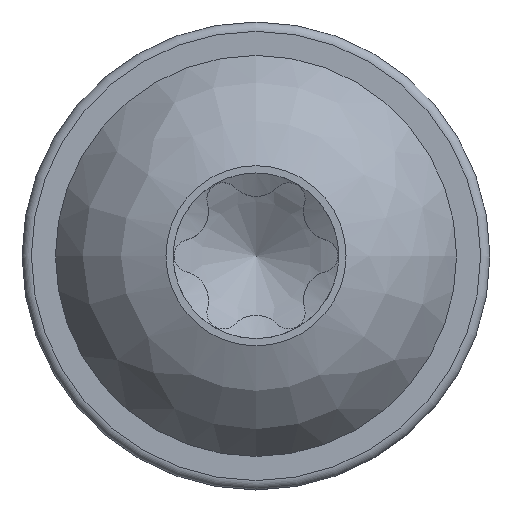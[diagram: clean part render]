
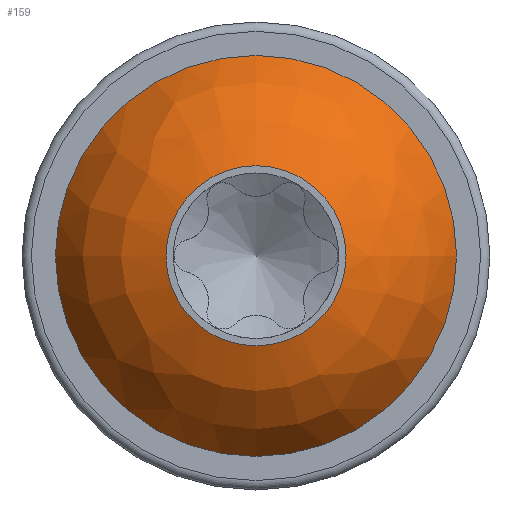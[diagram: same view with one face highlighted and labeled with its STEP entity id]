
A CAD part, top view. The second image highlights one B-rep face of the part: STEP entity #159.
In plain terms, the highlighted free-form (B-spline) face has degree [3, 3] with [4, 7] control points.
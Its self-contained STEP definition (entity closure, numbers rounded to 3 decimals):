
#98=(
BOUNDED_SURFACE()
B_SPLINE_SURFACE(3,3,((#1478,#1479,#1480,#1481,#1482,#1483,#1484),(#1485,
#1486,#1487,#1488,#1489,#1490,#1491),(#1492,#1493,#1494,#1495,#1496,#1497,
#1498),(#1499,#1500,#1501,#1502,#1503,#1504,#1505)),.UNSPECIFIED.,.F.,.T.,
 .F.)
B_SPLINE_SURFACE_WITH_KNOTS((4,4),(1,3,3,3,1),(0.,1.),(-0.5,0.,0.5,1.,1.5),
 .UNSPECIFIED.)
GEOMETRIC_REPRESENTATION_ITEM()
RATIONAL_B_SPLINE_SURFACE(((1.,0.333,0.333,1.,0.333,
0.333,1.),(0.941,0.314,0.314,
0.941,0.314,0.314,0.941),
(0.941,0.314,0.314,0.941,
0.314,0.314,0.941),(1.,0.333,
0.333,1.,0.333,0.333,1.)))
REPRESENTATION_ITEM('')
SURFACE()
);
#134=FACE_BOUND('',#245,.T.);
#135=FACE_BOUND('',#246,.T.);
#159=ADVANCED_FACE('',(#134,#135),#98,.T.);
#245=EDGE_LOOP('',(#342));
#246=EDGE_LOOP('',(#343));
#300=CIRCLE('',#735,2.143);
#301=CIRCLE('',#737,0.963);
#342=ORIENTED_EDGE('',*,*,#595,.F.);
#343=ORIENTED_EDGE('',*,*,#594,.T.);
#524=VERTEX_POINT('',#1474);
#525=VERTEX_POINT('',#1477);
#594=EDGE_CURVE('',#524,#524,#300,.T.);
#595=EDGE_CURVE('',#525,#525,#301,.T.);
#735=AXIS2_PLACEMENT_3D('',#1473,#802,#803);
#737=AXIS2_PLACEMENT_3D('',#1476,#806,#807);
#802=DIRECTION('',(0.,0.,1.));
#803=DIRECTION('',(1.,0.,0.));
#806=DIRECTION('',(0.,0.,1.));
#807=DIRECTION('',(1.,0.,0.));
#1473=CARTESIAN_POINT('',(0.,0.,0.5));
#1474=CARTESIAN_POINT('',(2.143,0.,0.5));
#1476=CARTESIAN_POINT('',(0.,0.,1.5));
#1477=CARTESIAN_POINT('',(0.963,0.,1.5));
#1478=CARTESIAN_POINT('',(0.963,0.,1.5));
#1479=CARTESIAN_POINT('',(0.963,1.925,1.5));
#1480=CARTESIAN_POINT('',(-0.963,1.925,1.5));
#1481=CARTESIAN_POINT('',(-0.963,0.,1.5));
#1482=CARTESIAN_POINT('',(-0.963,-1.925,1.5));
#1483=CARTESIAN_POINT('',(0.963,-1.925,1.5));
#1484=CARTESIAN_POINT('',(0.963,0.,1.5));
#1485=CARTESIAN_POINT('',(1.49,0.,1.35));
#1486=CARTESIAN_POINT('',(1.49,2.979,1.35));
#1487=CARTESIAN_POINT('',(-1.49,2.979,1.35));
#1488=CARTESIAN_POINT('',(-1.49,0.,1.35));
#1489=CARTESIAN_POINT('',(-1.49,-2.979,1.35));
#1490=CARTESIAN_POINT('',(1.49,-2.979,1.35));
#1491=CARTESIAN_POINT('',(1.49,0.,1.35));
#1492=CARTESIAN_POINT('',(1.908,0.,0.995));
#1493=CARTESIAN_POINT('',(1.908,3.816,0.995));
#1494=CARTESIAN_POINT('',(-1.908,3.816,0.995));
#1495=CARTESIAN_POINT('',(-1.908,0.,0.995));
#1496=CARTESIAN_POINT('',(-1.908,-3.816,0.995));
#1497=CARTESIAN_POINT('',(1.908,-3.816,0.995));
#1498=CARTESIAN_POINT('',(1.908,0.,0.995));
#1499=CARTESIAN_POINT('',(2.143,0.,0.5));
#1500=CARTESIAN_POINT('',(2.143,4.286,0.5));
#1501=CARTESIAN_POINT('',(-2.143,4.286,0.5));
#1502=CARTESIAN_POINT('',(-2.143,0.,0.5));
#1503=CARTESIAN_POINT('',(-2.143,-4.286,0.5));
#1504=CARTESIAN_POINT('',(2.143,-4.286,0.5));
#1505=CARTESIAN_POINT('',(2.143,0.,0.5));
